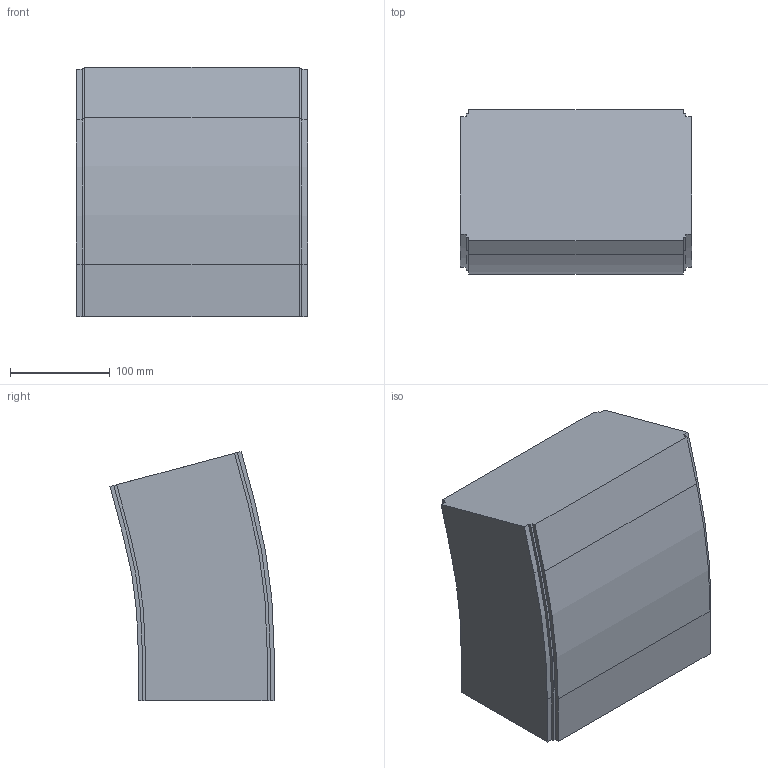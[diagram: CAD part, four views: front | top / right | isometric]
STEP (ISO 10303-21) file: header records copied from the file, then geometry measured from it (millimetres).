
FILE_DESCRIPTION (( 'STEP AP214' ), '1' );
FILE_NAME ('FS-MTC2-150-INOX verticaalbocht.230 15°.STEP', '2017-02-08T12:41:54', ( '' ), ( '' ), 'SwSTEP 2.0', 'SolidWorks 2016', '' );
FILE_SCHEMA (( 'AUTOMOTIVE_DESIGN' ));
Length unit declared in the file: millimetre
Products named in the file (1): FS-MTC2-150-INOX verticaalbocht.230 15°
Bounding box: 232.5 x 164.8 x 250.28 mm (x, y, z)
Volume: 7438259.4 mm3; surface area: 237156.9 mm2
Topology: 1 solids, 1 shells, 42 faces, 120 edges, 80 vertices
Faces by surface type: plane 32, cylinder 10
Entity records: 1398 total; most frequent: CARTESIAN_POINT 243, ORIENTED_EDGE 240, DIRECTION 226, EDGE_CURVE 120, LINE 100, VECTOR 100, VERTEX_POINT 80, AXIS2_PLACEMENT_3D 63
